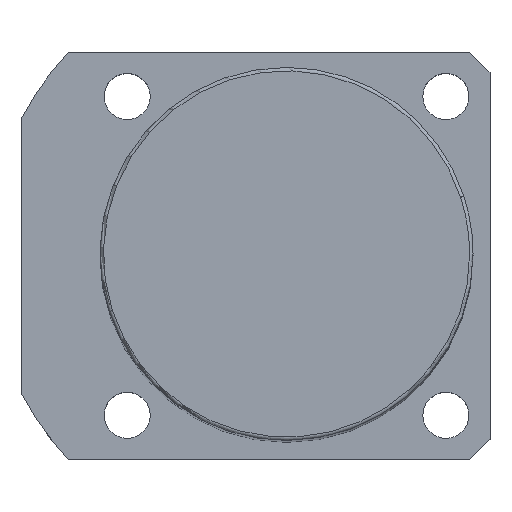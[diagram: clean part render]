
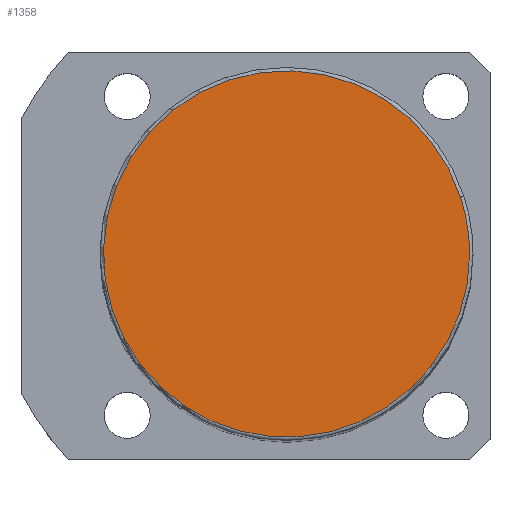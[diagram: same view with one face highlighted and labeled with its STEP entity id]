
A CAD part, top view. The second image highlights one B-rep face of the part: STEP entity #1358.
In plain terms, the highlighted planar face has unit normal (0, 0, 1).
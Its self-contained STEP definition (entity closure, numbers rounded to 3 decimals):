
#1324=CARTESIAN_POINT('',(27.0,0.0,176.0));
#1325=VERTEX_POINT('',#1324);
#1326=CARTESIAN_POINT('',(25.679,8.343,176.0));
#1327=VERTEX_POINT('',#1326);
#1328=CARTESIAN_POINT('',(0.0,0.0,176.0));
#1329=DIRECTION('',(0.0,0.0,1.0));
#1330=DIRECTION('',(1.0,0.0,0.0));
#1331=AXIS2_PLACEMENT_3D('',#1328,#1329,#1330);
#1332=CIRCLE('',#1331,27.0);
#1333=EDGE_CURVE('no 1849',#1325,#1327,#1332,.T.);
#1334=ORIENTED_EDGE('',*,*,#1333,.T.);
#1335=CARTESIAN_POINT('',(-25.679,-8.343,176.0));
#1336=VERTEX_POINT('',#1335);
#1337=CARTESIAN_POINT('',(0.0,0.0,176.0));
#1338=DIRECTION('',(0.0,0.0,1.0));
#1339=DIRECTION('',(1.0,0.0,0.0));
#1340=AXIS2_PLACEMENT_3D('',#1337,#1338,#1339);
#1341=CIRCLE('',#1340,27.0);
#1342=EDGE_CURVE('no 1855',#1327,#1336,#1341,.T.);
#1343=ORIENTED_EDGE('',*,*,#1342,.T.);
#1344=CARTESIAN_POINT('',(0.0,0.0,176.0));
#1345=DIRECTION('',(0.0,0.0,1.0));
#1346=DIRECTION('',(1.0,0.0,0.0));
#1347=AXIS2_PLACEMENT_3D('',#1344,#1345,#1346);
#1348=CIRCLE('',#1347,27.0);
#1349=EDGE_CURVE('no 1859',#1336,#1325,#1348,.T.);
#1350=ORIENTED_EDGE('',*,*,#1349,.T.);
#1351=EDGE_LOOP('',(#1334,#1343,#1350));
#1352=FACE_OUTER_BOUND('',#1351,.T.);
#1353=CARTESIAN_POINT('',(0.0,0.0,176.0));
#1354=DIRECTION('',(0.0,0.0,1.0));
#1355=DIRECTION('',(1.0,0.0,0.0));
#1356=AXIS2_PLACEMENT_3D('',#1353,#1354,#1355);
#1357=PLANE('',#1356);
#1358=ADVANCED_FACE('no 1840',(#1352),#1357,.T.);
